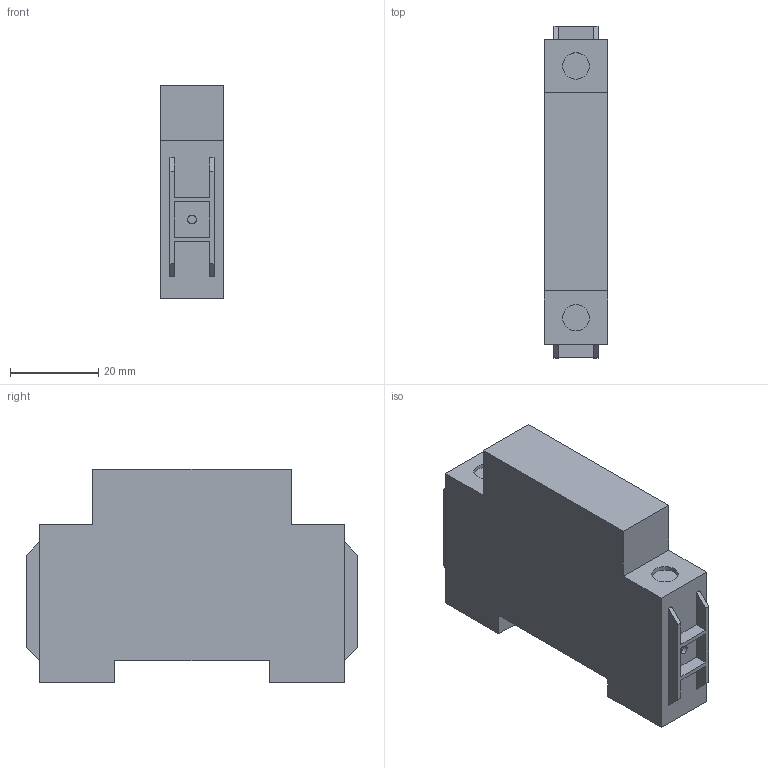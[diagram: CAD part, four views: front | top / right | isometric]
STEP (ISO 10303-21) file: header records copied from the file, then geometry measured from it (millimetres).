
FILE_DESCRIPTION(('STEP AP214'),'1');
FILE_NAME('pole_add_022203_ew.stp','2017-05-11T13:47:55',('TraceParts'),('TraceParts S.A.'),'Spatial InterOp 3D',' ',' ');
FILE_SCHEMA(('automotive_design'));
Length unit declared in the file: millimetre
Products named in the file (1): pole_add_022203_ew
Bounding box: 14.5 x 75.4 x 48.5 mm (x, y, z)
Volume: 42166.7 mm3; surface area: 10140.1 mm2
Topology: 1 solids, 1 shells, 62 faces, 156 edges, 104 vertices
Faces by surface type: plane 54, cylinder 8
Entity records: 1900 total; most frequent: CARTESIAN_POINT 323, ORIENTED_EDGE 312, DIRECTION 298, EDGE_CURVE 156, LINE 140, VECTOR 140, VERTEX_POINT 104, AXIS2_PLACEMENT_3D 79
